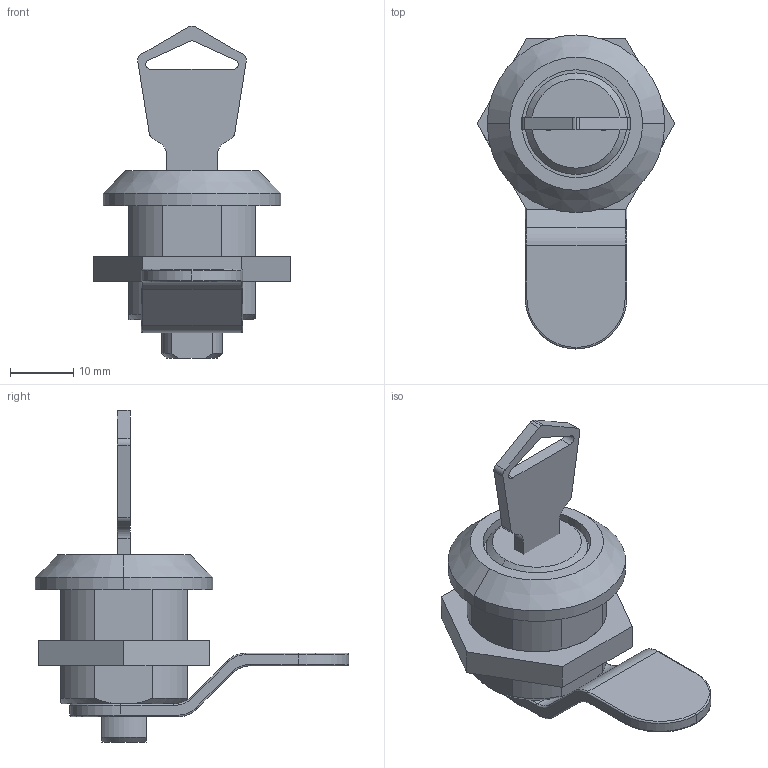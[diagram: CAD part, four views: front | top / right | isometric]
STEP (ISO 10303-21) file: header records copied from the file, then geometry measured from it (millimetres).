
FILE_DESCRIPTION (( 'STEP AP214' ), '1' );
FILE_NAME ('1.4020 Sylinterilukko 0-8.STEP', '2026-03-11T08:52:38', ( '' ), ( '' ), 'SwSTEP 2.0', 'SolidWorks 2025', '' );
FILE_SCHEMA (( 'AUTOMOTIVE_DESIGN' ));
Length unit declared in the file: millimetre
Products named in the file (1): 1.4020 Sylinterilukko 0-8
Bounding box: 31.18 x 49.5 x 52.35 mm (x, y, z)
Volume: 10970.6 mm3; surface area: 7708.6 mm2
Topology: 5 solids, 5 shells, 130 faces, 314 edges, 198 vertices
Faces by surface type: cylinder 53, plane 50, torus 16, cone 11
Entity records: 5294 total; most frequent: DIRECTION 703, CARTESIAN_POINT 667, ORIENTED_EDGE 628, EDGE_CURVE 314, AXIS2_PLACEMENT_3D 270, VERTEX_POINT 198, VECTOR 163, LINE 163
